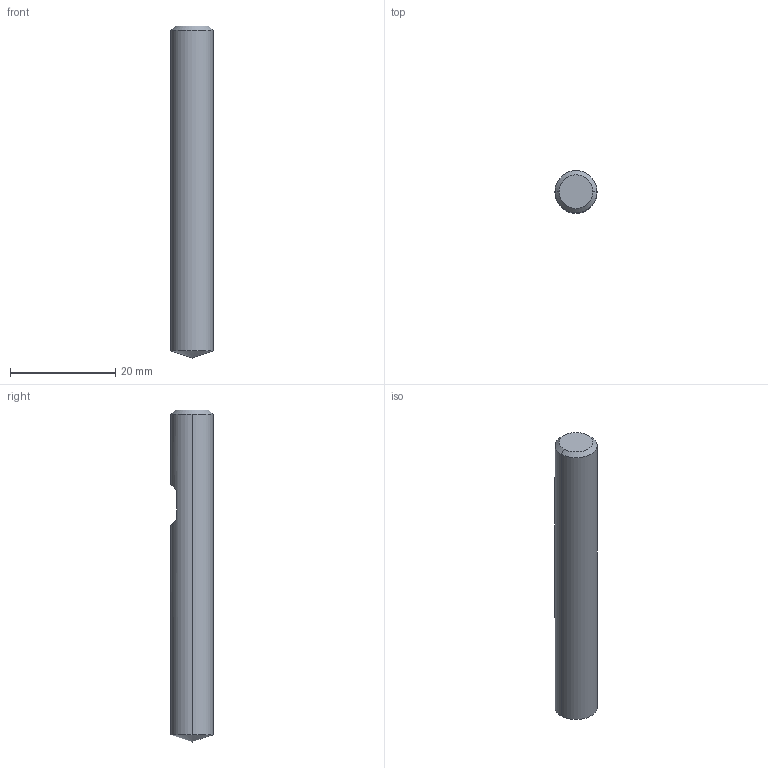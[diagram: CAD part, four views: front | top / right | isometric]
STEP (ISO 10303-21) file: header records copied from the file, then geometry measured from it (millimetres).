
FILE_DESCRIPTION (( 'STEP AP214' ), '1' );
FILE_NAME ('814.080.09_3D-model.step', '2022-02-23T22:55:30', ( '' ), ( '' ), 'SwSTEP 2.0', 'SolidWorks 2020', '' );
FILE_SCHEMA (( 'AUTOMOTIVE_DESIGN' ));
Length unit declared in the file: millimetre
Products named in the file (3): NOCUT-3D^Baugr192; 814.080.09_3D-model; CUT-3D^Baugr192
Assembly tree (2 placements, depth 2):
  814.080.09_3D-model
    CUT-3D^Baugr192
    NOCUT-3D^Baugr192
Bounding box: 8 x 8 x 63 mm (x, y, z)
Volume: 3086.4 mm3; surface area: 1739.9 mm2
Topology: 2 solids, 2 shells, 12 faces, 22 edges, 13 vertices
Faces by surface type: plane 6, cone 4, cylinder 2
Entity records: 406 total; most frequent: DIRECTION 66, CARTESIAN_POINT 59, ORIENTED_EDGE 40, AXIS2_PLACEMENT_3D 28, EDGE_CURVE 20, VERTEX_POINT 13, EDGE_LOOP 13, FACE_OUTER_BOUND 12
